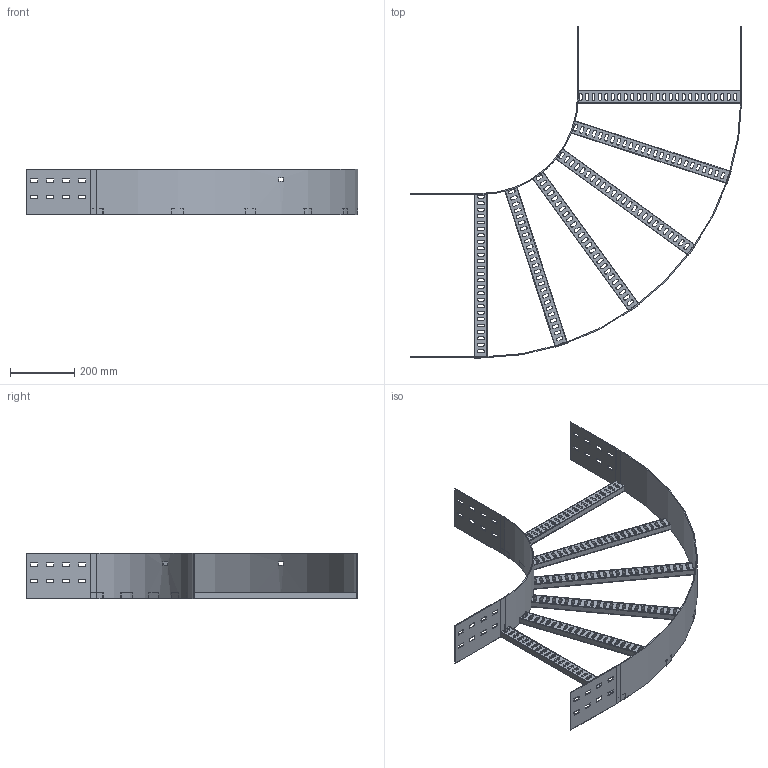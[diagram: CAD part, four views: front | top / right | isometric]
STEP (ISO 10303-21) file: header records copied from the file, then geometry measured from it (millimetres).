
FILE_DESCRIPTION(/* description */ ('','CAx-IF Rec.Pracs.---Representation and Presentation of Product Manufacturing Information (PMI)---4.0---2014-10-13'),/* implementation_level */ '2;1');
FILE_NAME(/* name */ 'Eurostrut_EFB150-500-90-300_Bend 90 for Cable Ladder ECL.step',/* time_stamp */ '2026-09-07T12:15:12+02:00',/* author */ (''),/* organization */ (''),/* preprocessor_version */ 'ST-DEVELOPER v20.1',/* originating_system */ 'Autodesk Revit 2027 27.2.0.39',/* authorisation */ '');
FILE_SCHEMA (('AP242_MANAGED_MODEL_BASED_3D_ENGINEERING_MIM_LF { 1 0 10303 442 2 1 4 }'));
Length unit declared in the file: millimetre
Products named in the file (6): TopLevelAssembly; Sweep; Extrusion; Extrusion_1; Eurostrut_Cable Ladder_Rung_Horizontal Bend_With slots; Eurostrut_Cable Ladder_Accessory End SWEEP
Assembly tree (8 placements, depth 2):
  TopLevelAssembly
    Sweep
    Extrusion
    Extrusion_1
    Eurostrut_Cable Ladder_Rung_Horizontal Bend_With slots
    Eurostrut_Cable Ladder_Accessory End SWEEP  x4
Bounding box: 1031 x 1031 x 142 mm (x, y, z)
Volume: 1469169.7 mm3; surface area: 1283914.3 mm2
Topology: 16 solids, 16 shells, 928 faces, 2688 edges, 1792 vertices
Faces by surface type: plane 588, bspline 312, cylinder 28
Entity records: 36372 total; most frequent: CARTESIAN_POINT 14344, ORIENTED_EDGE 4728, DIRECTION 4084, EDGE_CURVE 2364, LINE 1676, VECTOR 1676, VERTEX_POINT 1576, AXIS2_PLACEMENT_3D 1204
